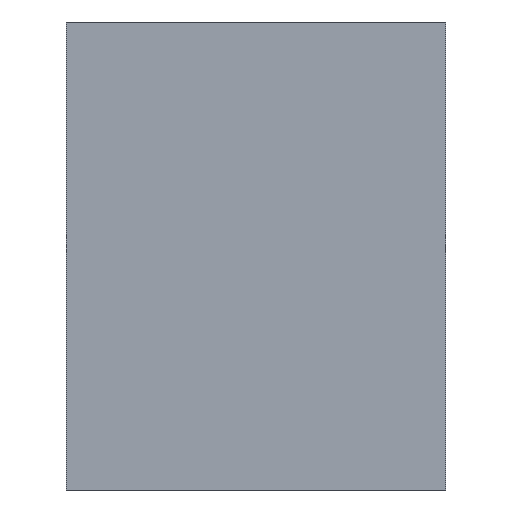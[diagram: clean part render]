
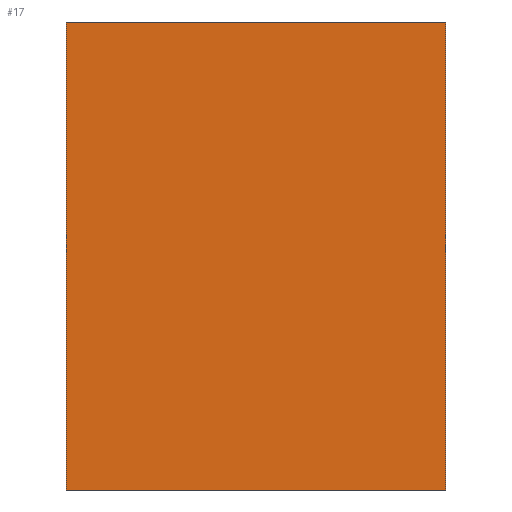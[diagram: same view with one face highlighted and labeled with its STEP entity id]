
A CAD part, front view. The second image highlights one B-rep face of the part: STEP entity #17.
In plain terms, the highlighted planar face has unit normal (0, -1, 0).
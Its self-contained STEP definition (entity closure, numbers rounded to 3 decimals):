
#17 = ADVANCED_FACE('',(#18),#32,.F.);
#18 = FACE_BOUND('',#19,.F.);
#19 = EDGE_LOOP('',(#20,#55,#83,#111));
#20 = ORIENTED_EDGE('',*,*,#21,.F.);
#21 = EDGE_CURVE('',#22,#24,#26,.T.);
#22 = VERTEX_POINT('',#23);
#23 = CARTESIAN_POINT('',(11.525,-38.45,5.9));
#24 = VERTEX_POINT('',#25);
#25 = CARTESIAN_POINT('',(11.525,-38.45,21.7));
#26 = SURFACE_CURVE('',#27,(#31,#43),.PCURVE_S1.);
#27 = LINE('',#28,#29);
#28 = CARTESIAN_POINT('',(11.525,-38.45,5.9));
#29 = VECTOR('',#30,1.);
#30 = DIRECTION('',(0.,0.,1.));
#31 = PCURVE('',#32,#37);
#32 = PLANE('',#33);
#33 = AXIS2_PLACEMENT_3D('',#34,#35,#36);
#34 = CARTESIAN_POINT('',(11.525,-38.45,5.9));
#35 = DIRECTION('',(0.,1.,0.));
#36 = DIRECTION('',(0.,0.,1.));
#37 = DEFINITIONAL_REPRESENTATION('',(#38),#42);
#38 = LINE('',#39,#40);
#39 = CARTESIAN_POINT('',(0.,0.));
#40 = VECTOR('',#41,1.);
#41 = DIRECTION('',(1.,0.));
#42 = ( GEOMETRIC_REPRESENTATION_CONTEXT(2) 
PARAMETRIC_REPRESENTATION_CONTEXT() REPRESENTATION_CONTEXT('2D SPACE',''
  ) );
#43 = PCURVE('',#44,#49);
#44 = PLANE('',#45);
#45 = AXIS2_PLACEMENT_3D('',#46,#47,#48);
#46 = CARTESIAN_POINT('',(11.525,-38.45,5.9));
#47 = DIRECTION('',(-1.,0.,0.));
#48 = DIRECTION('',(0.,0.,1.));
#49 = DEFINITIONAL_REPRESENTATION('',(#50),#54);
#50 = LINE('',#51,#52);
#51 = CARTESIAN_POINT('',(0.,0.));
#52 = VECTOR('',#53,1.);
#53 = DIRECTION('',(1.,0.));
#54 = ( GEOMETRIC_REPRESENTATION_CONTEXT(2) 
PARAMETRIC_REPRESENTATION_CONTEXT() REPRESENTATION_CONTEXT('2D SPACE',''
  ) );
#55 = ORIENTED_EDGE('',*,*,#56,.T.);
#56 = EDGE_CURVE('',#22,#57,#59,.T.);
#57 = VERTEX_POINT('',#58);
#58 = CARTESIAN_POINT('',(-1.275,-38.45,5.9));
#59 = SURFACE_CURVE('',#60,(#64,#71),.PCURVE_S1.);
#60 = LINE('',#61,#62);
#61 = CARTESIAN_POINT('',(11.525,-38.45,5.9));
#62 = VECTOR('',#63,1.);
#63 = DIRECTION('',(-1.,0.,0.));
#64 = PCURVE('',#32,#65);
#65 = DEFINITIONAL_REPRESENTATION('',(#66),#70);
#66 = LINE('',#67,#68);
#67 = CARTESIAN_POINT('',(0.,0.));
#68 = VECTOR('',#69,1.);
#69 = DIRECTION('',(0.,-1.));
#70 = ( GEOMETRIC_REPRESENTATION_CONTEXT(2) 
PARAMETRIC_REPRESENTATION_CONTEXT() REPRESENTATION_CONTEXT('2D SPACE',''
  ) );
#71 = PCURVE('',#72,#77);
#72 = PLANE('',#73);
#73 = AXIS2_PLACEMENT_3D('',#74,#75,#76);
#74 = CARTESIAN_POINT('',(11.525,-38.45,5.9));
#75 = DIRECTION('',(0.,0.,1.));
#76 = DIRECTION('',(0.,1.,0.));
#77 = DEFINITIONAL_REPRESENTATION('',(#78),#82);
#78 = LINE('',#79,#80);
#79 = CARTESIAN_POINT('',(0.,0.));
#80 = VECTOR('',#81,1.);
#81 = DIRECTION('',(0.,1.));
#82 = ( GEOMETRIC_REPRESENTATION_CONTEXT(2) 
PARAMETRIC_REPRESENTATION_CONTEXT() REPRESENTATION_CONTEXT('2D SPACE',''
  ) );
#83 = ORIENTED_EDGE('',*,*,#84,.T.);
#84 = EDGE_CURVE('',#57,#85,#87,.T.);
#85 = VERTEX_POINT('',#86);
#86 = CARTESIAN_POINT('',(-1.275,-38.45,21.7));
#87 = SURFACE_CURVE('',#88,(#92,#99),.PCURVE_S1.);
#88 = LINE('',#89,#90);
#89 = CARTESIAN_POINT('',(-1.275,-38.45,5.9));
#90 = VECTOR('',#91,1.);
#91 = DIRECTION('',(0.,0.,1.));
#92 = PCURVE('',#32,#93);
#93 = DEFINITIONAL_REPRESENTATION('',(#94),#98);
#94 = LINE('',#95,#96);
#95 = CARTESIAN_POINT('',(0.,-12.8));
#96 = VECTOR('',#97,1.);
#97 = DIRECTION('',(1.,0.));
#98 = ( GEOMETRIC_REPRESENTATION_CONTEXT(2) 
PARAMETRIC_REPRESENTATION_CONTEXT() REPRESENTATION_CONTEXT('2D SPACE',''
  ) );
#99 = PCURVE('',#100,#105);
#100 = PLANE('',#101);
#101 = AXIS2_PLACEMENT_3D('',#102,#103,#104);
#102 = CARTESIAN_POINT('',(-1.275,-38.45,5.9));
#103 = DIRECTION('',(-1.,0.,0.));
#104 = DIRECTION('',(0.,0.,1.));
#105 = DEFINITIONAL_REPRESENTATION('',(#106),#110);
#106 = LINE('',#107,#108);
#107 = CARTESIAN_POINT('',(0.,0.));
#108 = VECTOR('',#109,1.);
#109 = DIRECTION('',(1.,0.));
#110 = ( GEOMETRIC_REPRESENTATION_CONTEXT(2) 
PARAMETRIC_REPRESENTATION_CONTEXT() REPRESENTATION_CONTEXT('2D SPACE',''
  ) );
#111 = ORIENTED_EDGE('',*,*,#112,.F.);
#112 = EDGE_CURVE('',#24,#85,#113,.T.);
#113 = SURFACE_CURVE('',#114,(#118,#125),.PCURVE_S1.);
#114 = LINE('',#115,#116);
#115 = CARTESIAN_POINT('',(11.525,-38.45,21.7));
#116 = VECTOR('',#117,1.);
#117 = DIRECTION('',(-1.,0.,0.));
#118 = PCURVE('',#32,#119);
#119 = DEFINITIONAL_REPRESENTATION('',(#120),#124);
#120 = LINE('',#121,#122);
#121 = CARTESIAN_POINT('',(15.8,0.));
#122 = VECTOR('',#123,1.);
#123 = DIRECTION('',(0.,-1.));
#124 = ( GEOMETRIC_REPRESENTATION_CONTEXT(2) 
PARAMETRIC_REPRESENTATION_CONTEXT() REPRESENTATION_CONTEXT('2D SPACE',''
  ) );
#125 = PCURVE('',#126,#131);
#126 = PLANE('',#127);
#127 = AXIS2_PLACEMENT_3D('',#128,#129,#130);
#128 = CARTESIAN_POINT('',(11.525,-38.45,21.7));
#129 = DIRECTION('',(0.,0.,1.));
#130 = DIRECTION('',(0.,1.,0.));
#131 = DEFINITIONAL_REPRESENTATION('',(#132),#136);
#132 = LINE('',#133,#134);
#133 = CARTESIAN_POINT('',(0.,0.));
#134 = VECTOR('',#135,1.);
#135 = DIRECTION('',(0.,1.));
#136 = ( GEOMETRIC_REPRESENTATION_CONTEXT(2) 
PARAMETRIC_REPRESENTATION_CONTEXT() REPRESENTATION_CONTEXT('2D SPACE',''
  ) );
